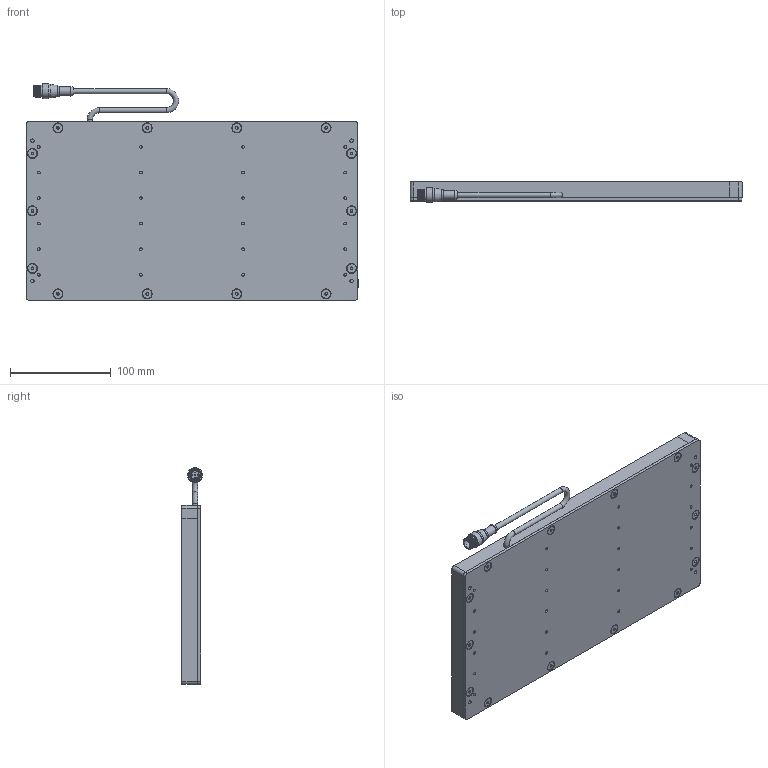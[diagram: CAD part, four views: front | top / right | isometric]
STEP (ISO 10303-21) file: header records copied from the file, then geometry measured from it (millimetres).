
FILE_DESCRIPTION (( 'STEP AP214' ), '1' );
FILE_NAME ('SBL612-XXX-WDC.STEP', '2026-04-17T19:15:24', ( '' ), ( '' ), 'SwSTEP 2.0', 'SolidWorks 2025', '' );
FILE_SCHEMA (( 'AUTOMOTIVE_DESIGN' ));
Length unit declared in the file: inch
Products named in the file (11): Hex Standoff .375 x 8-32; BackPlate BLYYXX_0612; SBL3 to 18in rail_12in rail; M12 Connector 4,5 and 8 pin_RS4.5T; SC Pigtail Complete 18_5pin; SBL3 to 18in rail_12in No CG; SBL3 to 18in rail_06in No CG; 8-32 x 0.375 FHCS (92210A192)_92210A192; WD-SBLYYXX_6x12; MC Pigtail 24; SBL612-XXX-WDC
Assembly tree (37 placements, depth 3):
  SBL612-XXX-WDC
    BackPlate BLYYXX_0612
    SBL3 to 18in rail_12in rail
    SBL3 to 18in rail_12in No CG
    SBL3 to 18in rail_06in No CG  x2
    SC Pigtail Complete 18_5pin
      MC Pigtail 24
      M12 Connector 4,5 and 8 pin_RS4.5T
    WD-SBLYYXX_6x12
    Hex Standoff .375 x 8-32  x14
    8-32 x 0.375 FHCS (92210A192)_92210A192  x14
Bounding box: 330.2 x 20.74 x 215.33 mm (x, y, z)
Volume: 521276.7 mm3; surface area: 314623.8 mm2
Topology: 36 solids, 36 shells, 956 faces, 2210 edges, 1355 vertices
Faces by surface type: plane 385, cylinder 268, cone 229, bspline 42, torus 27, sphere 5
Full cylindrical faces by diameter (mm): 0.762 x5, 2.705 x24, 3.454 x18, 4.496 x28, 5.207 x3, 6.604 x8, 6.858 x14, 8.382 x1, 8.636 x1, 9.119 x14, 10.16 x1, 10.541 x1, 11.938 x1, 13.716 x2, 14.732 x1
Entity records: 15319 total; most frequent: CARTESIAN_POINT 4001, DIRECTION 2159, ORIENTED_EDGE 1726, AXIS2_PLACEMENT_3D 888, EDGE_CURVE 863, EDGE_LOOP 687, VERTEX_POINT 642, FACE_OUTER_BOUND 503
